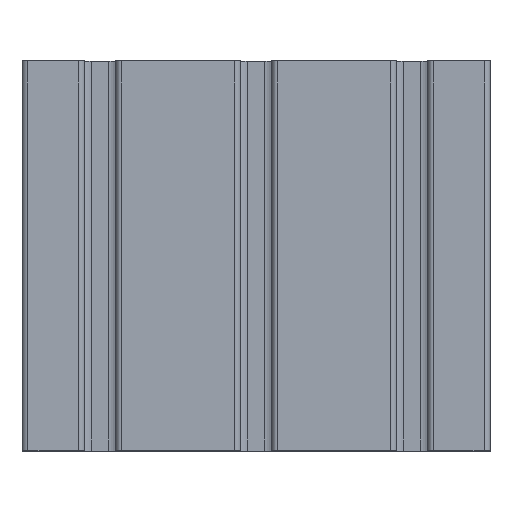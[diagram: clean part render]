
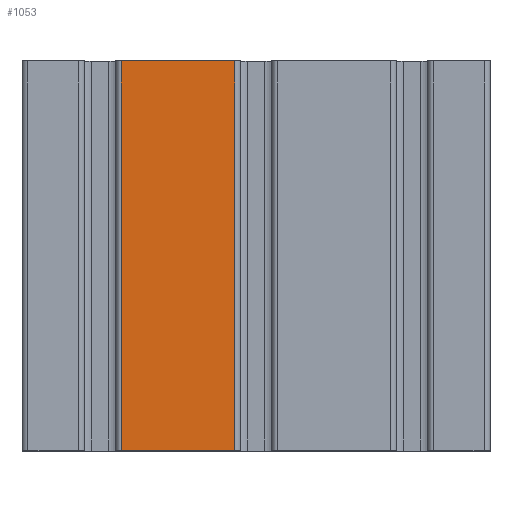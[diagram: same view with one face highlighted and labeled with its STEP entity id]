
A CAD part, top view. The second image highlights one B-rep face of the part: STEP entity #1053.
In plain terms, the highlighted planar face has unit normal (0, 0, 1).
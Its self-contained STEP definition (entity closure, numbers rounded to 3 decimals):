
#119 = VERTEX_POINT ( 'NONE', #290 ) ;
#201 = DIRECTION ( 'NONE',  ( 0., -1., 0. ) ) ;
#290 = CARTESIAN_POINT ( 'NONE',  ( -5.5, 50., 8. ) ) ;
#416 = CARTESIAN_POINT ( 'NONE',  ( -34.5, 50., 8. ) ) ;
#419 = CARTESIAN_POINT ( 'NONE',  ( -34.5, -50., 8. ) ) ;
#662 = EDGE_CURVE ( 'NONE', #1071, #119, #974, .T. ) ;
#781 = VECTOR ( 'NONE', #2861, 1000. ) ;
#839 = ORIENTED_EDGE ( 'NONE', *, *, #2876, .F. ) ;
#925 = CARTESIAN_POINT ( 'NONE',  ( -34.5, 50., 8. ) ) ;
#974 = LINE ( 'NONE', #925, #781 ) ;
#1053 = ADVANCED_FACE ( 'NONE', ( #2792 ), #4371, .F. ) ;
#1071 = VERTEX_POINT ( 'NONE', #416 ) ;
#1342 = DIRECTION ( 'NONE',  ( 1., 0., 0. ) ) ;
#1363 = DIRECTION ( 'NONE',  ( 0., 0., -1. ) ) ;
#2283 = CARTESIAN_POINT ( 'NONE',  ( -34.5, 50., 8. ) ) ;
#2706 = VECTOR ( 'NONE', #201, 1000. ) ;
#2792 = FACE_OUTER_BOUND ( 'NONE', #3874, .T. ) ;
#2827 = CARTESIAN_POINT ( 'NONE',  ( -5.5, -50., 8. ) ) ;
#2861 = DIRECTION ( 'NONE',  ( 1., 0., 0. ) ) ;
#2876 = EDGE_CURVE ( 'NONE', #119, #5005, #3557, .T. ) ;
#2891 = DIRECTION ( 'NONE',  ( -1., 0., 0. ) ) ;
#3177 = ORIENTED_EDGE ( 'NONE', *, *, #662, .F. ) ;
#3474 = AXIS2_PLACEMENT_3D ( 'NONE', #5699, #1363, #2891 ) ;
#3557 = LINE ( 'NONE', #4548, #2706 ) ;
#3727 = CARTESIAN_POINT ( 'NONE',  ( -34.5, -50., 8. ) ) ;
#3874 = EDGE_LOOP ( 'NONE', ( #3877, #839, #3177, #6141 ) ) ;
#3877 = ORIENTED_EDGE ( 'NONE', *, *, #5314, .T. ) ;
#4371 = PLANE ( 'NONE',  #3474 ) ;
#4548 = CARTESIAN_POINT ( 'NONE',  ( -5.5, 50., 8. ) ) ;
#4671 = LINE ( 'NONE', #2283, #4760 ) ;
#4760 = VECTOR ( 'NONE', #5642, 1000. ) ;
#5005 = VERTEX_POINT ( 'NONE', #2827 ) ;
#5314 = EDGE_CURVE ( 'NONE', #6097, #5005, #5676, .T. ) ;
#5369 = EDGE_CURVE ( 'NONE', #1071, #6097, #4671, .T. ) ;
#5561 = VECTOR ( 'NONE', #1342, 1000. ) ;
#5642 = DIRECTION ( 'NONE',  ( 0., -1., 0. ) ) ;
#5676 = LINE ( 'NONE', #419, #5561 ) ;
#5699 = CARTESIAN_POINT ( 'NONE',  ( -34.5, 50., 8. ) ) ;
#6097 = VERTEX_POINT ( 'NONE', #3727 ) ;
#6141 = ORIENTED_EDGE ( 'NONE', *, *, #5369, .T. ) ;
